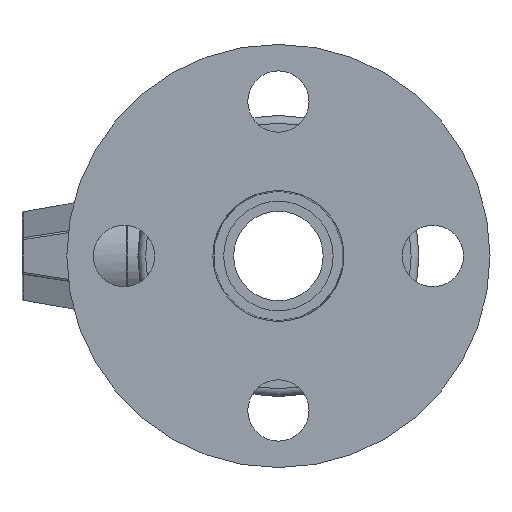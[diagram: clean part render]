
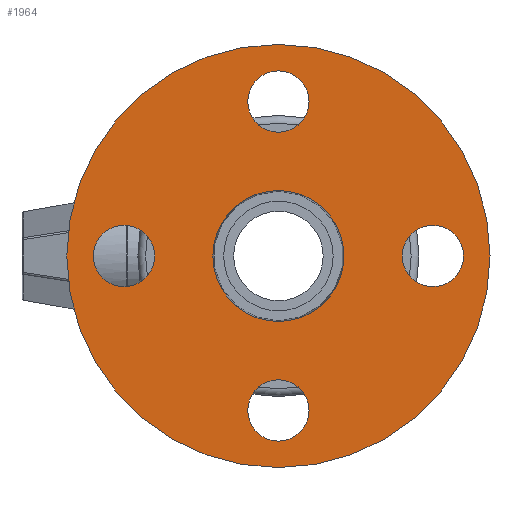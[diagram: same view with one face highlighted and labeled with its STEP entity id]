
A CAD part, left-side view. The second image highlights one B-rep face of the part: STEP entity #1964.
In plain terms, the highlighted planar face has unit normal (-1, 0, 0).
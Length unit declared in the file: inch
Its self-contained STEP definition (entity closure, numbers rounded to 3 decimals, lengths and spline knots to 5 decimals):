
#5 = CARTESIAN_POINT ( 'NONE',  ( -4., 1.5625, 0. ) ) ;
#80 = AXIS2_PLACEMENT_3D ( 'NONE', #467, #3105, #3124 ) ;
#102 = FACE_BOUND ( 'NONE', #1210, .T. ) ;
#137 = VERTEX_POINT ( 'NONE', #848 ) ;
#185 = CARTESIAN_POINT ( 'NONE',  ( -4., 1.2525, 0. ) ) ;
#224 = CARTESIAN_POINT ( 'NONE',  ( -4., -1.5625, 0. ) ) ;
#235 = AXIS2_PLACEMENT_3D ( 'NONE', #1053, #870, #313 ) ;
#248 = ORIENTED_EDGE ( 'NONE', *, *, #1466, .F. ) ;
#301 = EDGE_LOOP ( 'NONE', ( #2719 ) ) ;
#313 = DIRECTION ( 'NONE',  ( 0., -1., 0. ) ) ;
#350 = PLANE ( 'NONE',  #235 ) ;
#378 = FACE_BOUND ( 'NONE', #301, .T. ) ;
#411 = CARTESIAN_POINT ( 'NONE',  ( -4., -1.2525, 0. ) ) ;
#460 = CIRCLE ( 'NONE', #2148, 0.6625 ) ;
#467 = CARTESIAN_POINT ( 'NONE',  ( -4., 0., 1.5625 ) ) ;
#518 = CARTESIAN_POINT ( 'NONE',  ( -4., 0., 0. ) ) ;
#569 = CIRCLE ( 'NONE', #80, 0.31 ) ;
#579 = AXIS2_PLACEMENT_3D ( 'NONE', #518, #1932, #1955 ) ;
#616 = EDGE_LOOP ( 'NONE', ( #633 ) ) ;
#623 = ORIENTED_EDGE ( 'NONE', *, *, #1042, .F. ) ;
#633 = ORIENTED_EDGE ( 'NONE', *, *, #2805, .T. ) ;
#648 = DIRECTION ( 'NONE',  ( 0., 1., 0. ) ) ;
#771 = CIRCLE ( 'NONE', #2552, 0.31 ) ;
#806 = FACE_BOUND ( 'NONE', #1640, .T. ) ;
#819 = EDGE_LOOP ( 'NONE', ( #623 ) ) ;
#848 = CARTESIAN_POINT ( 'NONE',  ( -4., 2.14062, 0. ) ) ;
#870 = DIRECTION ( 'NONE',  ( -1., 0., 0. ) ) ;
#875 = VERTEX_POINT ( 'NONE', #1843 ) ;
#889 = CIRCLE ( 'NONE', #579, 2.14063 ) ;
#930 = EDGE_LOOP ( 'NONE', ( #248 ) ) ;
#934 = EDGE_CURVE ( 'NONE', #1908, #1908, #771, .T. ) ;
#1024 = CIRCLE ( 'NONE', #1336, 0.31 ) ;
#1038 = FACE_OUTER_BOUND ( 'NONE', #930, .T. ) ;
#1042 = EDGE_CURVE ( 'NONE', #1388, #1388, #1024, .T. ) ;
#1053 = CARTESIAN_POINT ( 'NONE',  ( -4., 2.14062, 0. ) ) ;
#1151 = VERTEX_POINT ( 'NONE', #2846 ) ;
#1202 = DIRECTION ( 'NONE',  ( -1., 0., 0. ) ) ;
#1210 = EDGE_LOOP ( 'NONE', ( #1303 ) ) ;
#1282 = DIRECTION ( 'NONE',  ( 0., 0., 1. ) ) ;
#1303 = ORIENTED_EDGE ( 'NONE', *, *, #934, .F. ) ;
#1336 = AXIS2_PLACEMENT_3D ( 'NONE', #5, #2233, #1678 ) ;
#1388 = VERTEX_POINT ( 'NONE', #185 ) ;
#1466 = EDGE_CURVE ( 'NONE', #137, #137, #889, .T. ) ;
#1561 = AXIS2_PLACEMENT_3D ( 'NONE', #2032, #1598, #1282 ) ;
#1598 = DIRECTION ( 'NONE',  ( -1., 0., 0. ) ) ;
#1640 = EDGE_LOOP ( 'NONE', ( #1924 ) ) ;
#1657 = DIRECTION ( 'NONE',  ( 1., 0., 0. ) ) ;
#1678 = DIRECTION ( 'NONE',  ( 0., -1., 0. ) ) ;
#1843 = CARTESIAN_POINT ( 'NONE',  ( -4., 0.6625, 0. ) ) ;
#1893 = CARTESIAN_POINT ( 'NONE',  ( -4., 0., 0. ) ) ;
#1908 = VERTEX_POINT ( 'NONE', #411 ) ;
#1924 = ORIENTED_EDGE ( 'NONE', *, *, #2295, .F. ) ;
#1932 = DIRECTION ( 'NONE',  ( 1., 0., 0. ) ) ;
#1955 = DIRECTION ( 'NONE',  ( 0., 1., 0. ) ) ;
#1964 = ADVANCED_FACE ( 'NONE', ( #378, #102, #806, #2275, #2074, #1038 ), #350, .T. ) ;
#1966 = EDGE_CURVE ( 'NONE', #2283, #2283, #2911, .T. ) ;
#1969 = DIRECTION ( 'NONE',  ( 0., 1., 0. ) ) ;
#2032 = CARTESIAN_POINT ( 'NONE',  ( -4., 0., -1.5625 ) ) ;
#2074 = FACE_BOUND ( 'NONE', #616, .T. ) ;
#2148 = AXIS2_PLACEMENT_3D ( 'NONE', #1893, #1657, #648 ) ;
#2233 = DIRECTION ( 'NONE',  ( -1., 0., 0. ) ) ;
#2275 = FACE_BOUND ( 'NONE', #819, .T. ) ;
#2283 = VERTEX_POINT ( 'NONE', #2783 ) ;
#2295 = EDGE_CURVE ( 'NONE', #1151, #1151, #569, .T. ) ;
#2552 = AXIS2_PLACEMENT_3D ( 'NONE', #224, #1202, #1969 ) ;
#2719 = ORIENTED_EDGE ( 'NONE', *, *, #1966, .F. ) ;
#2783 = CARTESIAN_POINT ( 'NONE',  ( -4., 0., -1.2525 ) ) ;
#2805 = EDGE_CURVE ( 'NONE', #875, #875, #460, .T. ) ;
#2846 = CARTESIAN_POINT ( 'NONE',  ( -4., 0., 1.2525 ) ) ;
#2911 = CIRCLE ( 'NONE', #1561, 0.31 ) ;
#3105 = DIRECTION ( 'NONE',  ( -1., 0., 0. ) ) ;
#3124 = DIRECTION ( 'NONE',  ( 0., 0., -1. ) ) ;
